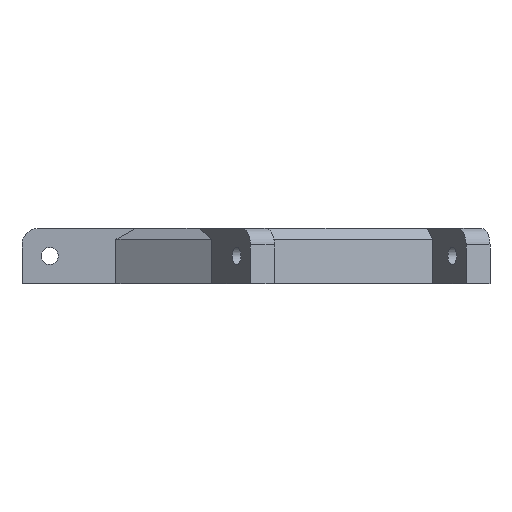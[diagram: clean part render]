
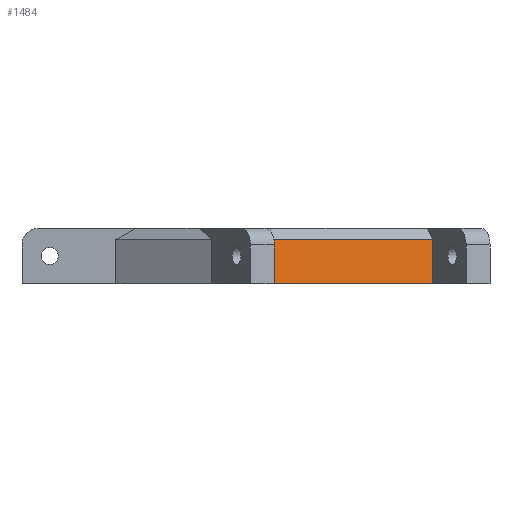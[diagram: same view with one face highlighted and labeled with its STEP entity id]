
A CAD part, left-side view. The second image highlights one B-rep face of the part: STEP entity #1484.
In plain terms, the highlighted planar face has unit normal (-0.866, -0.5, 0).
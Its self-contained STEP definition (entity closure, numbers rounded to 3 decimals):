
#135=FACE_OUTER_BOUND('',#219,.T.);
#219=EDGE_LOOP('',(#1143,#1144,#1145,#1146));
#386=LINE('',#2296,#554);
#388=LINE('',#2300,#556);
#389=LINE('',#2302,#557);
#390=LINE('',#2303,#558);
#554=VECTOR('',#1833,10.);
#556=VECTOR('',#1837,10.);
#557=VECTOR('',#1838,10.);
#558=VECTOR('',#1839,10.);
#706=VERTEX_POINT('',#2293);
#707=VERTEX_POINT('',#2295);
#708=VERTEX_POINT('',#2299);
#709=VERTEX_POINT('',#2301);
#876=EDGE_CURVE('',#706,#707,#386,.T.);
#878=EDGE_CURVE('',#708,#706,#388,.T.);
#879=EDGE_CURVE('',#708,#709,#389,.T.);
#880=EDGE_CURVE('',#709,#707,#390,.T.);
#1143=ORIENTED_EDGE('',*,*,#876,.F.);
#1144=ORIENTED_EDGE('',*,*,#878,.F.);
#1145=ORIENTED_EDGE('',*,*,#879,.T.);
#1146=ORIENTED_EDGE('',*,*,#880,.T.);
#1417=PLANE('',#1576);
#1484=ADVANCED_FACE('',(#135),#1417,.T.);
#1576=AXIS2_PLACEMENT_3D('',#2298,#1835,#1836);
#1833=DIRECTION('',(0.5,-0.866,0.));
#1835=DIRECTION('center_axis',(-0.866,-0.5,0.));
#1836=DIRECTION('ref_axis',(0.5,-0.866,0.));
#1837=DIRECTION('',(0.,0.,1.));
#1838=DIRECTION('',(0.5,-0.866,0.));
#1839=DIRECTION('',(0.,0.,1.));
#2293=CARTESIAN_POINT('',(-35.993,2.342,8.));
#2295=CARTESIAN_POINT('',(-15.968,-32.342,8.));
#2296=CARTESIAN_POINT('',(-36.194,2.689,8.));
#2298=CARTESIAN_POINT('Origin',(-35.993,2.342,0.));
#2299=CARTESIAN_POINT('',(-35.993,2.342,0.));
#2300=CARTESIAN_POINT('',(-35.993,2.342,0.));
#2301=CARTESIAN_POINT('',(-15.968,-32.342,0.));
#2302=CARTESIAN_POINT('',(-35.993,2.342,0.));
#2303=CARTESIAN_POINT('',(-15.968,-32.342,0.));
